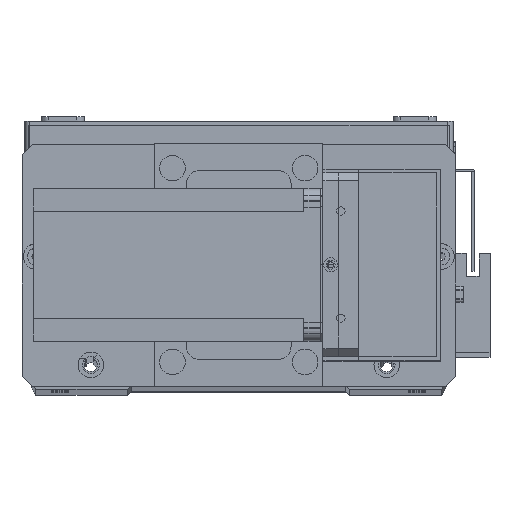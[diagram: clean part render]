
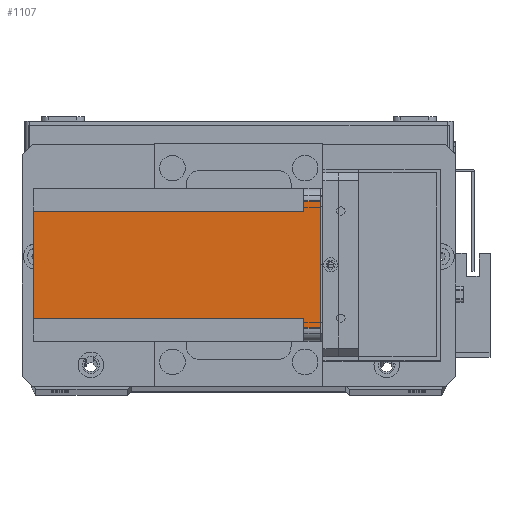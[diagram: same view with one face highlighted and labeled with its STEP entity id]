
A CAD part, top view. The second image highlights one B-rep face of the part: STEP entity #1107.
In plain terms, the highlighted planar face has unit normal (0, 0, 1) as drawn and (-1, 0, 0) by its records, which use the part's own axes.
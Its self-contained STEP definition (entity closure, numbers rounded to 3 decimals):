
#430 = DIRECTION ( 'NONE',  ( 0., 1., 0. ) ) ;
#574 = CARTESIAN_POINT ( 'NONE',  ( 0., 0., -6.5 ) ) ;
#634 = CARTESIAN_POINT ( 'NONE',  ( 0., 9., -112.5 ) ) ;
#896 = LINE ( 'NONE', #5865, #19867 ) ;
#1107 = ADVANCED_FACE ( 'NONE', ( #12957 ), #10703, .T. ) ;
#1577 = VECTOR ( 'NONE', #1938, 1000. ) ;
#1698 = LINE ( 'NONE', #1972, #1577 ) ;
#1938 = DIRECTION ( 'NONE',  ( 0., -1., 0. ) ) ;
#1972 = CARTESIAN_POINT ( 'NONE',  ( 0., 0., -112.5 ) ) ;
#2348 = EDGE_CURVE ( 'NONE', #27815, #21000, #1698, .T. ) ;
#2385 = CARTESIAN_POINT ( 'NONE',  ( 0., 51., -6.5 ) ) ;
#2941 = EDGE_CURVE ( 'NONE', #6185, #8681, #30086, .T. ) ;
#3407 = EDGE_CURVE ( 'NONE', #27815, #6185, #26794, .T. ) ;
#3443 = EDGE_CURVE ( 'NONE', #16445, #13073, #26595, .T. ) ;
#3473 = LINE ( 'NONE', #574, #3651 ) ;
#3651 = VECTOR ( 'NONE', #430, 1000. ) ;
#4981 = ORIENTED_EDGE ( 'NONE', *, *, #10215, .F. ) ;
#5248 = CARTESIAN_POINT ( 'NONE',  ( 0., 5., 0. ) ) ;
#5352 = EDGE_CURVE ( 'NONE', #16445, #8681, #17553, .T. ) ;
#5865 = CARTESIAN_POINT ( 'NONE',  ( 0., 5., -112.5 ) ) ;
#6185 = VERTEX_POINT ( 'NONE', #2385 ) ;
#6650 = CARTESIAN_POINT ( 'NONE',  ( 0., 9., -6.5 ) ) ;
#7021 = DIRECTION ( 'NONE',  ( 0., 0., -1. ) ) ;
#7070 = ORIENTED_EDGE ( 'NONE', *, *, #20320, .F. ) ;
#7581 = DIRECTION ( 'NONE',  ( 0., 0., 1. ) ) ;
#7807 = ORIENTED_EDGE ( 'NONE', *, *, #10563, .T. ) ;
#8681 = VERTEX_POINT ( 'NONE', #19691 ) ;
#8792 = CARTESIAN_POINT ( 'NONE',  ( 0., 55., -112.5 ) ) ;
#8965 = ORIENTED_EDGE ( 'NONE', *, *, #3407, .F. ) ;
#9982 = DIRECTION ( 'NONE',  ( 0., 0., -1. ) ) ;
#10215 = EDGE_CURVE ( 'NONE', #12140, #23546, #3473, .T. ) ;
#10563 = EDGE_CURVE ( 'NONE', #12140, #13073, #896, .T. ) ;
#10575 = CARTESIAN_POINT ( 'NONE',  ( 0., 9., -112.5 ) ) ;
#10703 = PLANE ( 'NONE',  #28056 ) ;
#11995 = ORIENTED_EDGE ( 'NONE', *, *, #2348, .T. ) ;
#12140 = VERTEX_POINT ( 'NONE', #13705 ) ;
#12630 = ORIENTED_EDGE ( 'NONE', *, *, #3443, .F. ) ;
#12957 = FACE_OUTER_BOUND ( 'NONE', #29763, .T. ) ;
#13073 = VERTEX_POINT ( 'NONE', #5248 ) ;
#13705 = CARTESIAN_POINT ( 'NONE',  ( 0., 5., -6.5 ) ) ;
#13998 = ORIENTED_EDGE ( 'NONE', *, *, #5352, .T. ) ;
#14386 = ORIENTED_EDGE ( 'NONE', *, *, #2941, .F. ) ;
#14564 = CARTESIAN_POINT ( 'NONE',  ( 0., 0., -112.5 ) ) ;
#15079 = DIRECTION ( 'NONE',  ( -1., 0., 0. ) ) ;
#15143 = DIRECTION ( 'NONE',  ( 0., -1., 0. ) ) ;
#15853 = CARTESIAN_POINT ( 'NONE',  ( 0., 51., -112.5 ) ) ;
#16445 = VERTEX_POINT ( 'NONE', #21188 ) ;
#17526 = VECTOR ( 'NONE', #7021, 1000. ) ;
#17553 = LINE ( 'NONE', #8792, #17526 ) ;
#18250 = DIRECTION ( 'NONE',  ( 0., 1., 0. ) ) ;
#18946 = VECTOR ( 'NONE', #9982, 1000. ) ;
#19691 = CARTESIAN_POINT ( 'NONE',  ( 0., 55., -6.5 ) ) ;
#19867 = VECTOR ( 'NONE', #7581, 1000. ) ;
#20320 = EDGE_CURVE ( 'NONE', #23546, #21000, #25471, .T. ) ;
#21000 = VERTEX_POINT ( 'NONE', #634 ) ;
#21188 = CARTESIAN_POINT ( 'NONE',  ( 0., 55., 0. ) ) ;
#23546 = VERTEX_POINT ( 'NONE', #6650 ) ;
#25471 = LINE ( 'NONE', #10575, #18946 ) ;
#25638 = CARTESIAN_POINT ( 'NONE',  ( 0., 60., -6.5 ) ) ;
#25711 = CARTESIAN_POINT ( 'NONE',  ( 0., 51., -112.5 ) ) ;
#25814 = DIRECTION ( 'NONE',  ( 0., -1., 0. ) ) ;
#26567 = VECTOR ( 'NONE', #25814, 1000. ) ;
#26595 = LINE ( 'NONE', #30509, #26567 ) ;
#26794 = LINE ( 'NONE', #25711, #26977 ) ;
#26977 = VECTOR ( 'NONE', #27696, 1000. ) ;
#27696 = DIRECTION ( 'NONE',  ( 0., 0., 1. ) ) ;
#27815 = VERTEX_POINT ( 'NONE', #15853 ) ;
#28056 = AXIS2_PLACEMENT_3D ( 'NONE', #14564, #15079, #15143 ) ;
#29728 = VECTOR ( 'NONE', #18250, 1000. ) ;
#29763 = EDGE_LOOP ( 'NONE', ( #4981, #7807, #12630, #13998, #14386, #8965, #11995, #7070 ) ) ;
#30086 = LINE ( 'NONE', #25638, #29728 ) ;
#30509 = CARTESIAN_POINT ( 'NONE',  ( 0., 0., 0. ) ) ;
